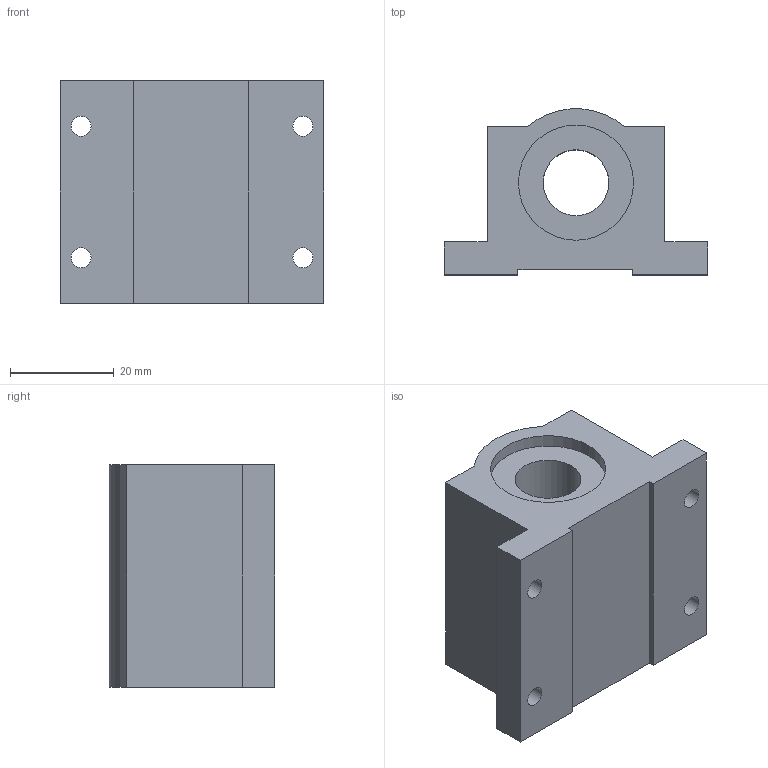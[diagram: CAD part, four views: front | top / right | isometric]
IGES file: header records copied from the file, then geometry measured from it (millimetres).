
Global section: file name: No Iges File Name specified; native system: AutoDesk Inventor R5.0; preprocessor: AutoDesk Inventor Iges Exporter R5.0; author: No Author specified; organization: No Organization specified; date: 20040123.191407; units: inch
Bounding box: 50.8 x 32.02 x 42.93 mm (x, y, z)
Surface area: 11006.5 mm2 (no closed solid volume)
Topology: 0 solids, 0 shells, 25 faces, 123 edges, 116 vertices
Faces by surface type: plane 17, revolution 4, bspline 4
